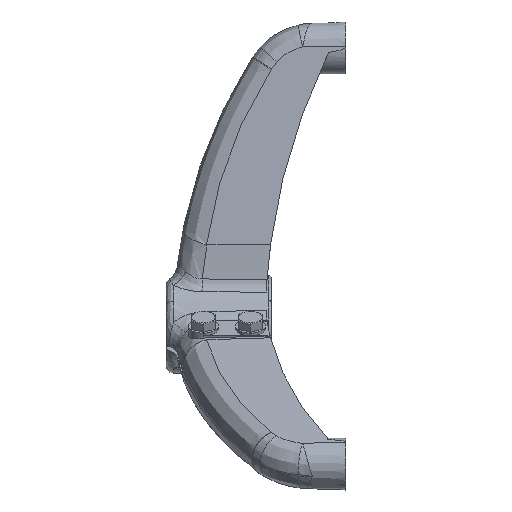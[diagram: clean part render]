
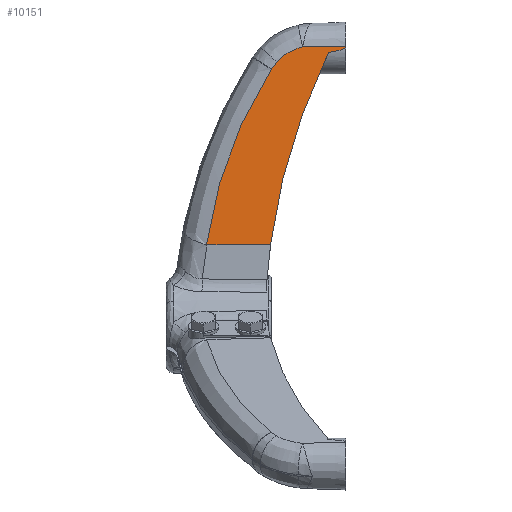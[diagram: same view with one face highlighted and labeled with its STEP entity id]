
A CAD part, left-side view. The second image highlights one B-rep face of the part: STEP entity #10151.
In plain terms, the highlighted planar face has unit normal (-0.998, 0.035, 0.044).
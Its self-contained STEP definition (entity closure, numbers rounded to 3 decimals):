
#106 = CARTESIAN_POINT ( 'NONE',  ( -24.072, 150.433, 64.956 ) ) ;
#237 = VERTEX_POINT ( 'NONE', #14377 ) ;
#344 = DIRECTION ( 'NONE',  ( 0.035, 0.999, -0.002 ) ) ;
#373 = CARTESIAN_POINT ( 'NONE',  ( -19.591, 95.285, 210.944 ) ) ;
#386 = CARTESIAN_POINT ( 'NONE',  ( -24.137, 152.681, 61.673 ) ) ;
#817 = CARTESIAN_POINT ( 'NONE',  ( -19.767, 72.777, 224.868 ) ) ;
#1232 = VECTOR ( 'NONE', #3676, 1000. ) ;
#1362 = CARTESIAN_POINT ( 'NONE',  ( -21.108, 127.612, 150.655 ) ) ;
#1563 = PLANE ( 'NONE',  #2208 ) ;
#1596 = CARTESIAN_POINT ( 'NONE',  ( -19.571, 93.707, 212.662 ) ) ;
#1615 = DIRECTION ( 'NONE',  ( 0.044, 0., 0.999 ) ) ;
#1665 = CARTESIAN_POINT ( 'NONE',  ( -19.6, 80.622, 222.412 ) ) ;
#1759 = CARTESIAN_POINT ( 'NONE',  ( -19.571, 93.707, 212.662 ) ) ;
#2026 = EDGE_LOOP ( 'NONE', ( #11739, #14537, #4105, #6335, #7505, #13741, #12369, #9112, #11100, #12422 ) ) ;
#2036 = CARTESIAN_POINT ( 'NONE',  ( -20.898, 44.494, 221.612 ) ) ;
#2075 = CARTESIAN_POINT ( 'NONE',  ( -19.671, 98.143, 206.857 ) ) ;
#2081 = CARTESIAN_POINT ( 'NONE',  ( -21., 38.579, 224. ) ) ;
#2208 = AXIS2_PLACEMENT_3D ( 'NONE', #386, #8878, #1615 ) ;
#2301 = EDGE_CURVE ( 'NONE', #10098, #3115, #13059, .T. ) ;
#2343 = VERTEX_POINT ( 'NONE', #2660 ) ;
#2526 = CARTESIAN_POINT ( 'NONE',  ( -19.665, 97.972, 207.123 ) ) ;
#2573 = LINE ( 'NONE', #12178, #1232 ) ;
#2660 = CARTESIAN_POINT ( 'NONE',  ( -24.084, 150.152, 64.914 ) ) ;
#2828 = CARTESIAN_POINT ( 'NONE',  ( -19.571, 93.707, 212.662 ) ) ;
#2846 = EDGE_CURVE ( 'NONE', #237, #3115, #7757, .T. ) ;
#2924 = CARTESIAN_POINT ( 'NONE',  ( -21., 38.579, 224. ) ) ;
#3115 = VERTEX_POINT ( 'NONE', #817 ) ;
#3221 = B_SPLINE_CURVE_WITH_KNOTS ( 'NONE', 3,
 ( #106, #3857, #7420, #8584, #8638, #1362, #3752, #9869, #7578, #13640 ),
 .UNSPECIFIED., .F., .F.,
 ( 4, 2, 2, 2, 4 ),
 ( 0., 0.25, 0.5, 0.75, 1. ),
 .UNSPECIFIED. ) ;
#3316 = CARTESIAN_POINT ( 'NONE',  ( -19.665, 97.972, 207.123 ) ) ;
#3522 = VERTEX_POINT ( 'NONE', #6478 ) ;
#3676 = DIRECTION ( 'NONE',  ( 0.035, 0.999, -0.001 ) ) ;
#3752 = CARTESIAN_POINT ( 'NONE',  ( -20.771, 122.572, 162.335 ) ) ;
#3814 = EDGE_CURVE ( 'NONE', #14720, #6703, #10722, .T. ) ;
#3832 = VECTOR ( 'NONE', #15420, 1000. ) ;
#3857 = CARTESIAN_POINT ( 'NONE',  ( -23.58, 148.711, 77.536 ) ) ;
#4105 = ORIENTED_EDGE ( 'NONE', *, *, #13069, .F. ) ;
#4553 = EDGE_CURVE ( 'NONE', #14720, #13560, #9333, .T. ) ;
#4701 = CARTESIAN_POINT ( 'NONE',  ( -20.695, 51.786, 220.433 ) ) ;
#4862 = CARTESIAN_POINT ( 'NONE',  ( -25.878, 98.763, 64.953 ) ) ;
#5267 = CARTESIAN_POINT ( 'NONE',  ( -19.534, 87.705, 218.282 ) ) ;
#5343 = CARTESIAN_POINT ( 'NONE',  ( -20.993, 38., 224.614 ) ) ;
#5691 = CARTESIAN_POINT ( 'NONE',  ( -21., 40.081, 222.804 ) ) ;
#5948 = CARTESIAN_POINT ( 'NONE',  ( -20.695, 51.786, 220.433 ) ) ;
#6217 = CARTESIAN_POINT ( 'NONE',  ( -24.084, 150.152, 64.914 ) ) ;
#6335 = ORIENTED_EDGE ( 'NONE', *, *, #7813, .F. ) ;
#6478 = CARTESIAN_POINT ( 'NONE',  ( -24.072, 150.433, 64.956 ) ) ;
#6703 = VERTEX_POINT ( 'NONE', #7938 ) ;
#7367 = CARTESIAN_POINT ( 'NONE',  ( -22.005, 75.868, 171.404 ) ) ;
#7420 = CARTESIAN_POINT ( 'NONE',  ( -23.116, 146.304, 90.023 ) ) ;
#7437 = CARTESIAN_POINT ( 'NONE',  ( -24.076, 150.342, 64.928 ) ) ;
#7505 = ORIENTED_EDGE ( 'NONE', *, *, #8238, .F. ) ;
#7578 = CARTESIAN_POINT ( 'NONE',  ( -19.901, 104.991, 196.156 ) ) ;
#7645 = CARTESIAN_POINT ( 'NONE',  ( -19.665, 97.972, 207.123 ) ) ;
#7757 = LINE ( 'NONE', #13566, #14803 ) ;
#7813 = EDGE_CURVE ( 'NONE', #11600, #8235, #13535, .T. ) ;
#7938 = CARTESIAN_POINT ( 'NONE',  ( -21., 38.579, 224. ) ) ;
#8082 = CARTESIAN_POINT ( 'NONE',  ( -20.695, 51.786, 220.433 ) ) ;
#8235 = VERTEX_POINT ( 'NONE', #2526 ) ;
#8238 = EDGE_CURVE ( 'NONE', #3522, #11600, #3221, .T. ) ;
#8525 = CARTESIAN_POINT ( 'NONE',  ( -23.749, 91.667, 119.115 ) ) ;
#8584 = CARTESIAN_POINT ( 'NONE',  ( -22.249, 140.148, 114.665 ) ) ;
#8638 = CARTESIAN_POINT ( 'NONE',  ( -21.847, 136.4, 126.82 ) ) ;
#8878 = DIRECTION ( 'NONE',  ( 0.998, -0.035, -0.044 ) ) ;
#9112 = ORIENTED_EDGE ( 'NONE', *, *, #4553, .F. ) ;
#9191 = EDGE_CURVE ( 'NONE', #2343, #3522, #12938, .T. ) ;
#9333 =( BOUNDED_CURVE ( )  B_SPLINE_CURVE ( 3, ( #4701, #7367, #8525, #4862 ),
 .UNSPECIFIED., .F., .F. ) 
 B_SPLINE_CURVE_WITH_KNOTS ( ( 4, 4 ),
 ( 0.442, 0.768 ),
 .UNSPECIFIED. ) 
 CURVE ( )  GEOMETRIC_REPRESENTATION_ITEM ( )  RATIONAL_B_SPLINE_CURVE ( ( 1., 0.991, 0.991, 1. ) ) 
 REPRESENTATION_ITEM ( '' )  );
#9869 = CARTESIAN_POINT ( 'NONE',  ( -20.168, 111.262, 185.086 ) ) ;
#10098 = VERTEX_POINT ( 'NONE', #1759 ) ;
#10151 = ADVANCED_FACE ( 'NONE', ( #12316 ), #1563, .F. ) ;
#10650 = EDGE_CURVE ( 'NONE', #13560, #2343, #2573, .T. ) ;
#10722 =( BOUNDED_CURVE ( )  B_SPLINE_CURVE ( 3, ( #8082, #2036, #5691, #2081 ),
 .UNSPECIFIED., .F., .F. ) 
 B_SPLINE_CURVE_WITH_KNOTS ( ( 4, 4 ),
 ( 6.069, 6.239 ),
 .UNSPECIFIED. ) 
 CURVE ( )  GEOMETRIC_REPRESENTATION_ITEM ( )  RATIONAL_B_SPLINE_CURVE ( ( 1., 0.998, 0.998, 1. ) ) 
 REPRESENTATION_ITEM ( '' )  );
#11100 = ORIENTED_EDGE ( 'NONE', *, *, #3814, .T. ) ;
#11288 = CARTESIAN_POINT ( 'NONE',  ( -19.535, 90.934, 215.682 ) ) ;
#11482 = CARTESIAN_POINT ( 'NONE',  ( -21., 38.193, 224.307 ) ) ;
#11600 = VERTEX_POINT ( 'NONE', #2075 ) ;
#11739 = ORIENTED_EDGE ( 'NONE', *, *, #2846, .T. ) ;
#11907 = EDGE_CURVE ( 'NONE', #6703, #237, #15389, .T. ) ;
#12178 = CARTESIAN_POINT ( 'NONE',  ( -25.878, 98.763, 64.953 ) ) ;
#12312 = CARTESIAN_POINT ( 'NONE',  ( -25.878, 98.763, 64.953 ) ) ;
#12316 = FACE_OUTER_BOUND ( 'NONE', #2026, .T. ) ;
#12369 = ORIENTED_EDGE ( 'NONE', *, *, #10650, .F. ) ;
#12422 = ORIENTED_EDGE ( 'NONE', *, *, #11907, .T. ) ;
#12508 = CARTESIAN_POINT ( 'NONE',  ( -19.668, 76.768, 223.942 ) ) ;
#12741 = CARTESIAN_POINT ( 'NONE',  ( -20.98, 38., 224.921 ) ) ;
#12938 = B_SPLINE_CURVE_WITH_KNOTS ( 'NONE', 3,
 ( #6217, #14723, #7437, #13389 ),
 .UNSPECIFIED., .F., .F.,
 ( 4, 4 ),
 ( 0., 1. ),
 .UNSPECIFIED. ) ;
#13059 = B_SPLINE_CURVE_WITH_KNOTS ( 'NONE', 3,
 ( #2828, #11288, #5267, #1665, #12508, #13770 ),
 .UNSPECIFIED., .F., .F.,
 ( 4, 2, 4 ),
 ( 0., 0.5, 1. ),
 .UNSPECIFIED. ) ;
#13069 = EDGE_CURVE ( 'NONE', #8235, #10098, #15678, .T. ) ;
#13389 = CARTESIAN_POINT ( 'NONE',  ( -24.072, 150.433, 64.956 ) ) ;
#13535 = LINE ( 'NONE', #3316, #3832 ) ;
#13560 = VERTEX_POINT ( 'NONE', #12312 ) ;
#13566 = CARTESIAN_POINT ( 'NONE',  ( -20.373, 55.388, 224.894 ) ) ;
#13640 = CARTESIAN_POINT ( 'NONE',  ( -19.671, 98.143, 206.857 ) ) ;
#13741 = ORIENTED_EDGE ( 'NONE', *, *, #9191, .F. ) ;
#13770 = CARTESIAN_POINT ( 'NONE',  ( -19.767, 72.777, 224.868 ) ) ;
#14377 = CARTESIAN_POINT ( 'NONE',  ( -20.98, 38., 224.921 ) ) ;
#14537 = ORIENTED_EDGE ( 'NONE', *, *, #2301, .F. ) ;
#14720 = VERTEX_POINT ( 'NONE', #5948 ) ;
#14723 = CARTESIAN_POINT ( 'NONE',  ( -24.08, 150.247, 64.914 ) ) ;
#14803 = VECTOR ( 'NONE', #344, 1000. ) ;
#15036 = CARTESIAN_POINT ( 'NONE',  ( -19.623, 96.715, 209.088 ) ) ;
#15389 =( BOUNDED_CURVE ( )  B_SPLINE_CURVE ( 3, ( #2924, #11482, #5343, #12741 ),
 .UNSPECIFIED., .F., .F. ) 
 B_SPLINE_CURVE_WITH_KNOTS ( ( 4, 4 ),
 ( 6.239, 6.283 ),
 .UNSPECIFIED. ) 
 CURVE ( )  GEOMETRIC_REPRESENTATION_ITEM ( )  RATIONAL_B_SPLINE_CURVE ( ( 1., 1., 1., 1. ) ) 
 REPRESENTATION_ITEM ( '' )  );
#15420 = DIRECTION ( 'NONE',  ( 0.018, -0.539, 0.842 ) ) ;
#15678 = B_SPLINE_CURVE_WITH_KNOTS ( 'NONE', 3,
 ( #7645, #15036, #373, #1596 ),
 .UNSPECIFIED., .F., .F.,
 ( 4, 4 ),
 ( 0., 1. ),
 .UNSPECIFIED. ) ;
